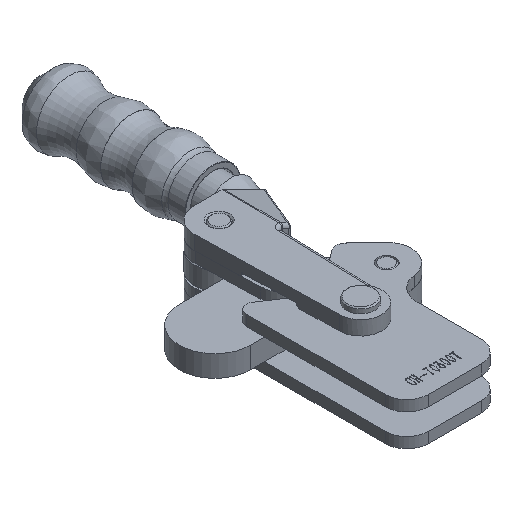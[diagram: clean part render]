
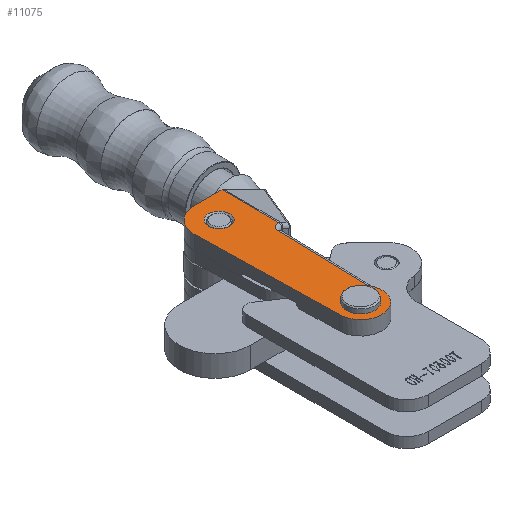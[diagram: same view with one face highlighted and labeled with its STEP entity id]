
A CAD part, isometric view. The second image highlights one B-rep face of the part: STEP entity #11075.
In plain terms, the highlighted planar face has unit normal (0, 0, 1).
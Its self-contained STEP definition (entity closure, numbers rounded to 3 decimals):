
#742=FACE_BOUND('',#2127,.T.);
#743=FACE_BOUND('',#2128,.T.);
#1011=PLANE('',#11816);
#1500=FACE_OUTER_BOUND('',#2126,.T.);
#2126=EDGE_LOOP('',(#9809,#9810,#9811,#9812,#9813,#9814,#9815,#9816));
#2127=EDGE_LOOP('',(#9817,#9818));
#2128=EDGE_LOOP('',(#9819,#9820));
#3124=LINE('',#26735,#4079);
#3131=LINE('',#26757,#4086);
#3146=LINE('',#26802,#4101);
#3147=LINE('',#26806,#4102);
#3148=LINE('',#26807,#4103);
#4079=VECTOR('',#13769,1000.);
#4086=VECTOR('',#13790,1000.);
#4101=VECTOR('',#13839,1000.);
#4102=VECTOR('',#13842,1000.);
#4103=VECTOR('',#13843,1000.);
#4266=CIRCLE('',#11745,3.);
#4267=CIRCLE('',#11746,3.);
#4270=CIRCLE('',#11750,3.);
#4271=CIRCLE('',#11751,3.);
#4296=CIRCLE('',#11787,6.);
#4299=CIRCLE('',#11797,7.);
#4308=CIRCLE('',#11817,2.);
#5333=VERTEX_POINT('',#26568);
#5334=VERTEX_POINT('',#26570);
#5337=VERTEX_POINT('',#26578);
#5338=VERTEX_POINT('',#26580);
#5379=VERTEX_POINT('',#26681);
#5380=VERTEX_POINT('',#26700);
#5391=VERTEX_POINT('',#26732);
#5392=VERTEX_POINT('',#26734);
#5397=VERTEX_POINT('',#26747);
#5413=VERTEX_POINT('',#26801);
#5414=VERTEX_POINT('',#26803);
#5415=VERTEX_POINT('',#26805);
#6831=EDGE_CURVE('',#5334,#5333,#4266,.T.);
#6832=EDGE_CURVE('',#5333,#5334,#4267,.T.);
#6836=EDGE_CURVE('',#5338,#5337,#4270,.T.);
#6837=EDGE_CURVE('',#5337,#5338,#4271,.T.);
#6886=EDGE_CURVE('',#5380,#5379,#4296,.T.);
#6901=EDGE_CURVE('',#5392,#5391,#3124,.T.);
#6909=EDGE_CURVE('',#5391,#5397,#4299,.T.);
#6913=EDGE_CURVE('',#5380,#5397,#3131,.T.);
#6937=EDGE_CURVE('',#5379,#5413,#3146,.T.);
#6938=EDGE_CURVE('',#5413,#5414,#4308,.T.);
#6939=EDGE_CURVE('',#5414,#5415,#3147,.T.);
#6940=EDGE_CURVE('',#5415,#5392,#3148,.T.);
#9809=ORIENTED_EDGE('',*,*,#6886,.T.);
#9810=ORIENTED_EDGE('',*,*,#6937,.T.);
#9811=ORIENTED_EDGE('',*,*,#6938,.T.);
#9812=ORIENTED_EDGE('',*,*,#6939,.T.);
#9813=ORIENTED_EDGE('',*,*,#6940,.T.);
#9814=ORIENTED_EDGE('',*,*,#6901,.T.);
#9815=ORIENTED_EDGE('',*,*,#6909,.T.);
#9816=ORIENTED_EDGE('',*,*,#6913,.F.);
#9817=ORIENTED_EDGE('',*,*,#6836,.T.);
#9818=ORIENTED_EDGE('',*,*,#6837,.T.);
#9819=ORIENTED_EDGE('',*,*,#6831,.T.);
#9820=ORIENTED_EDGE('',*,*,#6832,.T.);
#11075=ADVANCED_FACE('',(#1500,#742,#743),#1011,.T.);
#11745=AXIS2_PLACEMENT_3D('',#26571,#13639,#13640);
#11746=AXIS2_PLACEMENT_3D('',#26572,#13641,#13642);
#11750=AXIS2_PLACEMENT_3D('',#26581,#13650,#13651);
#11751=AXIS2_PLACEMENT_3D('',#26582,#13652,#13653);
#11787=AXIS2_PLACEMENT_3D('',#26701,#13747,#13748);
#11797=AXIS2_PLACEMENT_3D('',#26749,#13782,#13783);
#11816=AXIS2_PLACEMENT_3D('',#26800,#13837,#13838);
#11817=AXIS2_PLACEMENT_3D('',#26804,#13840,#13841);
#13639=DIRECTION('center_axis',(0.,0.,-1.));
#13640=DIRECTION('ref_axis',(1.,0.,0.));
#13641=DIRECTION('center_axis',(0.,0.,-1.));
#13642=DIRECTION('ref_axis',(1.,0.,0.));
#13650=DIRECTION('center_axis',(0.,0.,-1.));
#13651=DIRECTION('ref_axis',(1.,0.,0.));
#13652=DIRECTION('center_axis',(0.,0.,-1.));
#13653=DIRECTION('ref_axis',(1.,0.,0.));
#13747=DIRECTION('center_axis',(0.,0.,1.));
#13748=DIRECTION('ref_axis',(1.,0.,0.));
#13769=DIRECTION('',(-1.,0.,0.));
#13782=DIRECTION('center_axis',(0.,0.,1.));
#13783=DIRECTION('ref_axis',(1.,0.,0.));
#13790=DIRECTION('',(-0.025,1.,0.));
#13837=DIRECTION('center_axis',(0.,0.,1.));
#13838=DIRECTION('ref_axis',(1.,0.,0.));
#13839=DIRECTION('',(0.025,1.,0.));
#13840=DIRECTION('center_axis',(0.,0.,-1.));
#13841=DIRECTION('ref_axis',(1.,0.,0.));
#13842=DIRECTION('',(1.,0.,0.));
#13843=DIRECTION('',(0.,1.,0.));
#26568=CARTESIAN_POINT('',(1262.319,62.312,20.));
#26570=CARTESIAN_POINT('',(1268.319,62.312,20.));
#26571=CARTESIAN_POINT('Origin',(1265.319,62.312,20.));
#26572=CARTESIAN_POINT('Origin',(1265.319,62.312,20.));
#26578=CARTESIAN_POINT('',(1262.319,22.312,20.));
#26580=CARTESIAN_POINT('',(1268.319,22.312,20.));
#26581=CARTESIAN_POINT('Origin',(1265.319,22.312,20.));
#26582=CARTESIAN_POINT('Origin',(1265.319,22.312,20.));
#26681=CARTESIAN_POINT('',(1270.398,25.506,20.));
#26700=CARTESIAN_POINT('',(1259.319,22.312,20.));
#26701=CARTESIAN_POINT('Origin',(1265.319,22.312,20.));
#26732=CARTESIAN_POINT('',(1265.319,69.312,20.));
#26734=CARTESIAN_POINT('',(1273.08,69.312,20.));
#26735=CARTESIAN_POINT('',(0.,69.312,20.));
#26747=CARTESIAN_POINT('',(1258.319,62.312,20.));
#26749=CARTESIAN_POINT('Origin',(1265.319,62.312,20.));
#26757=CARTESIAN_POINT('',(1259.089,31.477,20.));
#26800=CARTESIAN_POINT('Origin',(0.,0.,20.));
#26801=CARTESIAN_POINT('',(1271.045,51.362,20.));
#26802=CARTESIAN_POINT('',(1271.045,51.362,20.));
#26803=CARTESIAN_POINT('',(1273.044,53.312,20.));
#26804=CARTESIAN_POINT('Origin',(1273.044,51.312,20.));
#26805=CARTESIAN_POINT('',(1273.08,53.312,20.));
#26806=CARTESIAN_POINT('',(0.,53.312,20.));
#26807=CARTESIAN_POINT('',(1273.08,69.312,20.));
